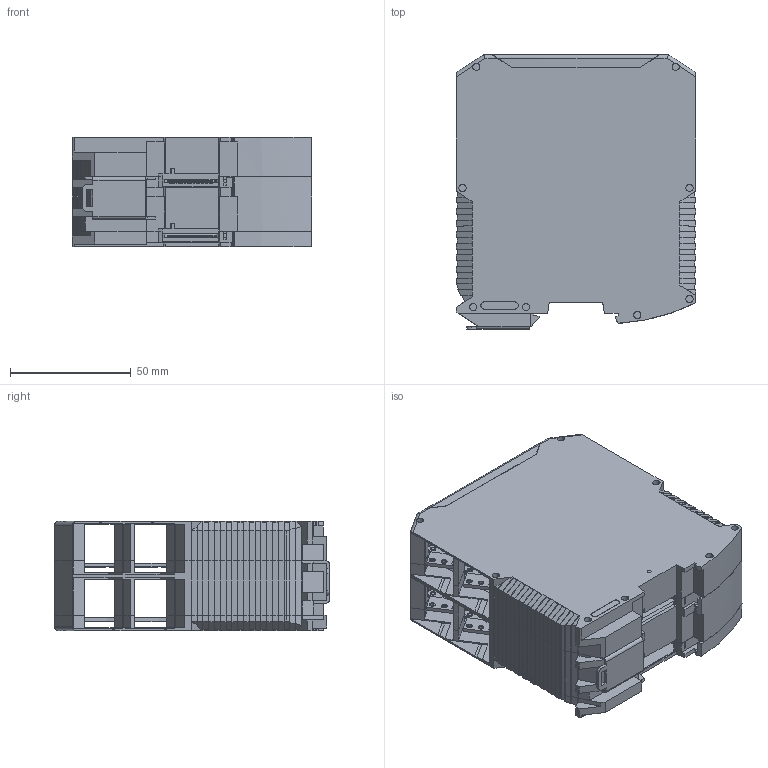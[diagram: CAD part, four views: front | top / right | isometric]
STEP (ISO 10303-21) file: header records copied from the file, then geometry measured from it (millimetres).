
FILE_DESCRIPTION(('OneSpaceDesigner STEP Export'),'2;1');
FILE_NAME('ME_MAX_45_G_2-2.stp','2004-11-18T10:07:56',(''),(''),'OneSpace Designer STEP processor (Jan. 2003) for AP214(CD)(Solid Model)','OneSpace Designer 12.01C 26-Mar-2004 (C) CoCreate Software GmbH','');
FILE_SCHEMA(('AUTOMOTIVE_DESIGN_CC2 {1 2 10303 214 -1 1 5 1}'));
Length unit declared in the file: millimetre
Products named in the file (9): ME_MAX_22.5_PLATE.1; ME_MAX_45_MT_G_2-2_H.Select; ME_MAX_GEH-L_G_2-2_H.Select; ME_MAX_22.5_GEH-R_G_2-2_H.Select; ME_MAX_22.5_DKL_H.Select.1; Fussriegel_17.5_L30_H.Select; ME_MAX_LP-MKDSO_2-2__00268395.2; ME_MAX_LP-MSTBO_2-2__00286672; ME_MAX_45_G_2-2_H.Select
Assembly tree (12 placements, depth 2):
  ME_MAX_45_G_2-2_H.Select
    ME_MAX_LP-MSTBO_2-2__00286672  x2
    ME_MAX_LP-MKDSO_2-2__00268395.2  x2
    ME_MAX_22.5_PLATE.1  x2
    Fussriegel_17.5_L30_H.Select
    ME_MAX_22.5_DKL_H.Select.1  x2
    ME_MAX_22.5_GEH-R_G_2-2_H.Select
    ME_MAX_GEH-L_G_2-2_H.Select
    ME_MAX_45_MT_G_2-2_H.Select
Bounding box: 99 x 113.6 x 45.2 mm (x, y, z)
Volume: 120725.1 mm3; surface area: 163010.4 mm2
Topology: 12 solids, 12 shells, 3896 faces, 10609 edges, 7004 vertices
Faces by surface type: plane 2871, cylinder 1015, torus 8, cone 2
Entity records: 93554 total; most frequent: ORIENTED_EDGE 14354, CARTESIAN_POINT 13961, DIRECTION 11880, EDGE_CURVE 7177, VECTOR 5752, LINE 5752, VERTEX_POINT 4733, AXIS2_PLACEMENT_3D 3064
